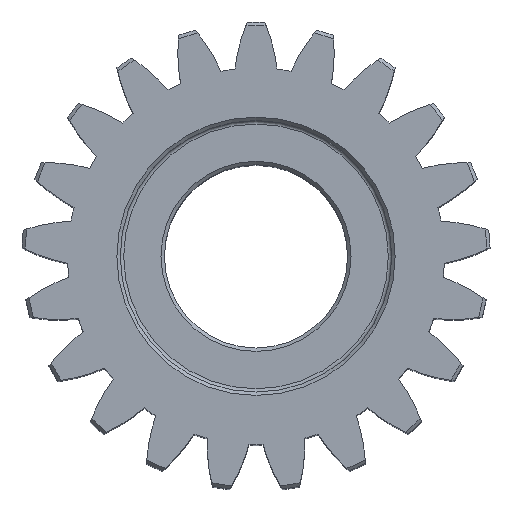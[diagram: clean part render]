
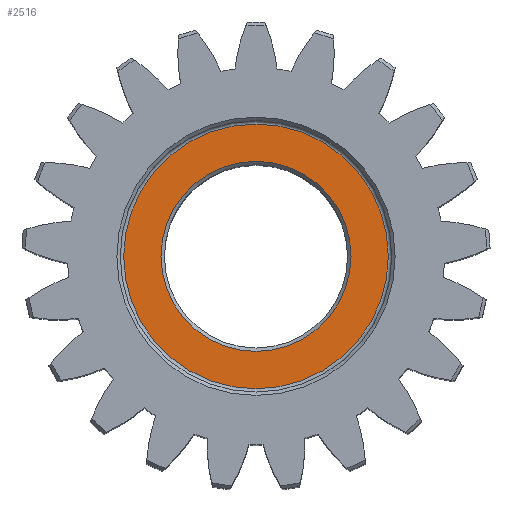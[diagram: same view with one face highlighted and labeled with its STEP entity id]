
A CAD part, top view. The second image highlights one B-rep face of the part: STEP entity #2516.
In plain terms, the highlighted planar face has unit normal (0, 0, 1).
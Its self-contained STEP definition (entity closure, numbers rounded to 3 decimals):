
#31=FACE_BOUND('',#536,.T.);
#35=PLANE('',#2907);
#394=FACE_OUTER_BOUND('',#535,.T.);
#535=EDGE_LOOP('',(#2174));
#536=EDGE_LOOP('',(#2175));
#800=CIRCLE('',#2902,28.);
#804=CIRCLE('',#2908,39.);
#1155=VERTEX_POINT('',#4789);
#1159=VERTEX_POINT('',#4801);
#1550=EDGE_CURVE('',#1155,#1155,#800,.T.);
#1556=EDGE_CURVE('',#1159,#1159,#804,.T.);
#2174=ORIENTED_EDGE('',*,*,#1556,.F.);
#2175=ORIENTED_EDGE('',*,*,#1550,.F.);
#2516=ADVANCED_FACE('',(#394,#31),#35,.T.);
#2902=AXIS2_PLACEMENT_3D('',#4790,#3662,#3663);
#2907=AXIS2_PLACEMENT_3D('',#4800,#3674,#3675);
#2908=AXIS2_PLACEMENT_3D('',#4802,#3676,#3677);
#3662=DIRECTION('center_axis',(0.,0.,1.));
#3663=DIRECTION('ref_axis',(-1.,0.,0.));
#3674=DIRECTION('center_axis',(0.,0.,1.));
#3675=DIRECTION('ref_axis',(1.,0.,0.));
#3676=DIRECTION('center_axis',(0.,0.,-1.));
#3677=DIRECTION('ref_axis',(-1.,0.,0.));
#4789=CARTESIAN_POINT('',(28.,0.,134.));
#4790=CARTESIAN_POINT('Origin',(0.,0.,134.));
#4800=CARTESIAN_POINT('Origin',(0.,0.,134.));
#4801=CARTESIAN_POINT('',(39.,0.,134.));
#4802=CARTESIAN_POINT('Origin',(0.,0.,134.));
